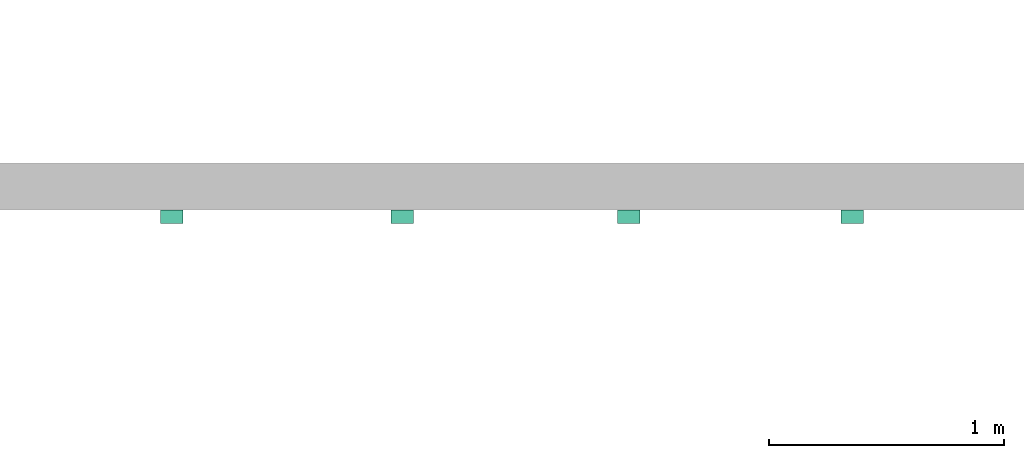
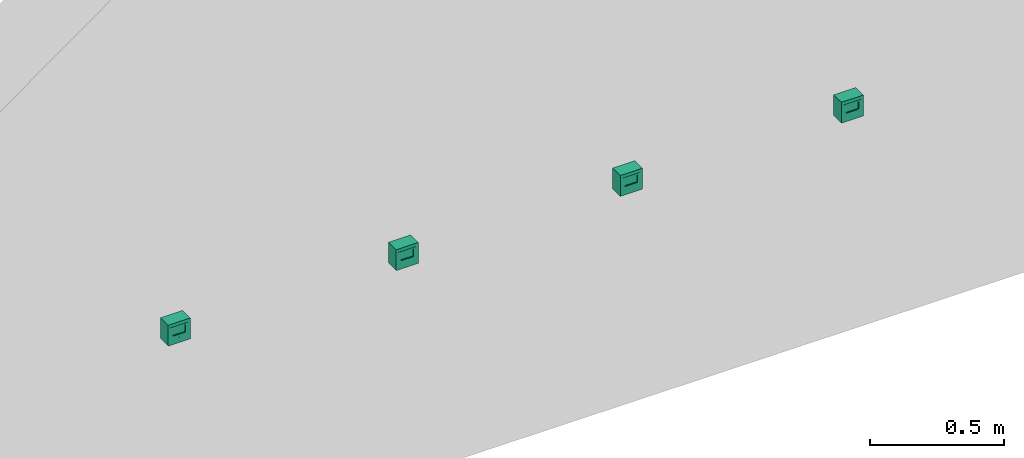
# One storey, part 28 of 197: 4 distribution control elements.
"""IFC2X3 building model written with IfcOpenShell, lengths in metres."""

from ifc_helpers import new_model, entity, si_unit, converted_unit, direction, frame, origin, place, context, subcontext, project, spatial, faceted_brep, source, transform, mapped, material, material_list, type_object, type_shapes, element, save


model = new_model("IFC2X3")

# Units and contexts
model_context = context("Model", 3, precision=1e-05, world=origin(), true_north=direction((6.123031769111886e-17, 1.0)))
body_context = subcontext(model_context, "Body", "Model", "MODEL_VIEW")
ifc_project = project(units=[si_unit("LENGTHUNIT", "METRE"), converted_unit("PLANEANGLEUNIT", "DEGREE", entity("IfcPlaneAngleMeasure", 0.017453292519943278), si_unit("PLANEANGLEUNIT", "RADIAN"), dimensions=[0, 0, 0, 0, 0, 0, 0]), si_unit("AREAUNIT", "SQUARE_METRE")], contexts=[model_context])

# Site, building, storey
site_placement = place(None, origin())
site = spatial("IfcSite", under=ifc_project, at=site_placement, Name="Default", CompositionType="ELEMENT")
building_placement = place(site_placement, origin())
building = spatial("IfcBuilding", under=site, at=building_placement, CompositionType="ELEMENT")
storey_placement = place(building_placement, origin())
storey = spatial("IfcBuildingStorey", under=building, at=storey_placement, Name="Niveau 0", CompositionType="ELEMENT", Elevation=0.0)

# Distribution control elements
ifc_material_1 = material(Name="BETCE-INCENDIE-VITRE BLANC")
ifc_material_2 = material(Name="BETCE-INCENDIE-DM NOIR")
ifc_material_list_1 = material_list([ifc_material_1, ifc_material_2])
alarm_type_1 = type_object("IfcAlarmType", Name="Déclencheur manuel saillie:DM NOIR", PredefinedType="NOTDEFINED", material=ifc_material_list_1)
shared_shape_1 = source(origin(), body_context, "Body", "Brep", [
    faceted_brep([(0.024500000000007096, -0.052000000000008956, 0.03800000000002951), (0.026621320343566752, -0.05200000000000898, 0.038878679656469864), (0.027500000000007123, -0.052000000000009, 0.0410000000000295), (0.027500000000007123, -0.0520000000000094, 0.07000000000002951), (0.026621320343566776, -0.05200000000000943, 0.07212132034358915), (0.024500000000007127, -0.05200000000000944, 0.07300000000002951), (-0.02449999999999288, -0.05200000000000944, 0.07300000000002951), (-0.026621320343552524, -0.05200000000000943, 0.07212132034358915), (-0.027499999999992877, -0.0520000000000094, 0.07000000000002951), (-0.027499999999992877, -0.052000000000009, 0.04100000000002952), (-0.026621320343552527, -0.05200000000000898, 0.03887867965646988), (-0.024499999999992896, -0.052000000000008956, 0.03800000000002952), (0.024500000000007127, -0.05000000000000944, 0.07300000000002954), (0.026621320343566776, -0.050000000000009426, 0.07212132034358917), (0.027500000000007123, -0.05000000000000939, 0.07000000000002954), (0.027500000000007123, -0.050000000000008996, 0.04100000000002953), (0.026621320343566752, -0.050000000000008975, 0.038878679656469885), (0.024500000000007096, -0.050000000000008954, 0.03800000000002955), (-0.024499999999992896, -0.050000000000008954, 0.03800000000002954), (-0.026621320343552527, -0.050000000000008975, 0.038878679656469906), (-0.027499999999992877, -0.050000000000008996, 0.04100000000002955), (-0.027499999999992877, -0.05000000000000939, 0.07000000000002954), (-0.026621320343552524, -0.050000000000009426, 0.07212132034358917), (-0.02449999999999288, -0.05000000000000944, 0.07300000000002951)], [[[0, 1, 2, 3, 4, 5, 6, 7, 8, 9, 10, 11]], [[12, 13, 14, 15, 16, 17, 18, 19, 20, 21, 22, 23]], [[9, 20, 19, 10]], [[19, 18, 11, 10]], [[0, 11, 18, 17]], [[0, 17, 16, 1]], [[16, 15, 2, 1]], [[3, 2, 15, 14]], [[3, 14, 13, 4]], [[13, 12, 5, 4]], [[6, 5, 12, 23]], [[6, 23, 22, 7]], [[22, 21, 8, 7]], [[9, 8, 21, 20]]]),
    faceted_brep([(0.047500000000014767, -0.057000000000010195, 0.09500000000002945), (0.03750000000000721, -0.05700000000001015, 0.09150320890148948), (0.03750000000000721, -0.05700000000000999, 0.07950320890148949), (-0.037499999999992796, -0.05700000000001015, 0.09150320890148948), (0.047500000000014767, -0.057000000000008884, 0.0), (-0.04749999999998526, -0.057000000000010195, 0.09500000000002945), (-0.037499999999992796, -0.05700000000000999, 0.07950320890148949), (-0.047499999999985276, -0.057000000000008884, 0.0), (-0.027499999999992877, -0.05700000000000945, 0.04100000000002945), (-0.026621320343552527, -0.05700000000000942, 0.03887867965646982), (-0.0244999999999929, -0.05700000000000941, 0.03800000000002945), (0.0, -0.057000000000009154, 0.02000000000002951), (0.027500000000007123, -0.05700000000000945, 0.041000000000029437), (0.02662132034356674, -0.05700000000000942, 0.03887867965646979), (0.02450000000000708, -0.05700000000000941, 0.03800000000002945), (0.002000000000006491, -0.05700000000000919, 0.022000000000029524), (0.0, -0.05700000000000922, 0.02400000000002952), (0.0, -0.057000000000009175, 0.021000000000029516), (0.0, -0.057000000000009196, 0.023000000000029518), (0.0010000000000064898, -0.05700000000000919, 0.022000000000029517), (-0.027499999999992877, -0.05700000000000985, 0.07000000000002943), (-0.026621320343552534, -0.05700000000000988, 0.07212132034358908), (-0.02449999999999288, -0.05700000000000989, 0.07300000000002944), (0.024500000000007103, -0.05700000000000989, 0.07300000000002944), (0.02662132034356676, -0.05700000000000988, 0.0721213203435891), (0.027500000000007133, -0.05700000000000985, 0.07000000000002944), (-0.047499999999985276, 0.0, 0.0), (-0.04749999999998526, 0.0, 0.09500000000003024), (0.047500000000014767, 0.0, 0.09500000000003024), (0.04750000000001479, 0.0, 0.0), (-0.024499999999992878, -0.05000000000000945, 0.07300000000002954), (-0.026621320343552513, -0.05000000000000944, 0.07212132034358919), (-0.027499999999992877, -0.050000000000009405, 0.07000000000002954), (-0.027499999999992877, -0.050000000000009, 0.04100000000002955), (-0.026621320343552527, -0.050000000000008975, 0.03887867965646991), (-0.0244999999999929, -0.05000000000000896, 0.038000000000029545), (0.024500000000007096, -0.05000000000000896, 0.03800000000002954), (0.026621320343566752, -0.050000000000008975, 0.038878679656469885), (0.027500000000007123, -0.050000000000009, 0.04100000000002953), (0.027500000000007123, -0.050000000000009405, 0.07000000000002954), (0.026621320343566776, -0.05000000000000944, 0.07212132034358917), (0.024500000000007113, -0.05000000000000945, 0.07300000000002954), (0.0010000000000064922, -0.05000000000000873, 0.02200000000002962), (0.0, -0.050000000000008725, 0.021000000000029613), (0.0, -0.05000000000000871, 0.02000000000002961), (0.0020000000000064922, -0.05000000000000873, 0.022000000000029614), (0.0, -0.05000000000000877, 0.024000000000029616), (0.0, -0.05000000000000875, 0.023000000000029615), (0.03750000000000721, -0.05600000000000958, 0.0795032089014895), (0.03750000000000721, -0.05600000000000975, 0.0915032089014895), (-0.037499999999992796, -0.05600000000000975, 0.0915032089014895), (-0.037499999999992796, -0.05600000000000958, 0.0795032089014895)], [[[0, 1, 2]], [[1, 0, 3]], [[0, 2, 4]], [[5, 3, 0]], [[6, 3, 5]], [[6, 5, 7]], [[8, 6, 7]], [[9, 8, 7]], [[7, 10, 9]], [[10, 7, 11]], [[11, 7, 4]], [[12, 4, 2]], [[4, 12, 13]], [[4, 13, 14]], [[4, 15, 11]], [[14, 15, 4]], [[14, 16, 15]], [[11, 17, 10]], [[17, 18, 10]], [[17, 19, 18]], [[18, 16, 10]], [[14, 10, 16]], [[20, 6, 8]], [[20, 21, 6]], [[21, 22, 6]], [[22, 23, 2]], [[6, 22, 2]], [[23, 24, 2]], [[24, 25, 2]], [[2, 25, 12]], [[26, 27, 28, 29]], [[5, 0, 28, 27]], [[7, 5, 27, 26]], [[4, 7, 26, 29]], [[0, 4, 29, 28]], [[30, 31, 32, 33, 34, 35, 36, 37, 38, 39, 40, 41]], [[42, 43, 44, 45, 46, 47]], [[41, 23, 22, 30]], [[21, 31, 30, 22]], [[20, 32, 31, 21]], [[32, 20, 8, 33]], [[9, 34, 33, 8]], [[10, 35, 34, 9]], [[35, 10, 14, 36]], [[13, 37, 36, 14]], [[12, 38, 37, 13]], [[38, 12, 25, 39]], [[24, 40, 39, 25]], [[23, 41, 40, 24]], [[43, 17, 11, 44]], [[46, 16, 18, 47]], [[15, 45, 44, 11]], [[16, 46, 45, 15]], [[18, 19, 42, 47]], [[42, 19, 17, 43]], [[48, 49, 50, 51]], [[49, 1, 3, 50]], [[50, 3, 6, 51]], [[51, 6, 2, 48]], [[48, 2, 1, 49]]]),
])
type_shapes(alarm_type_1, [shared_shape_1])
distribution_control_element_1_placement = place(storey_placement, frame((-535.0455951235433, -24.636644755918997, 1.0)))
element("IfcDistributionControlElement", 1, at=distribution_control_element_1_placement, inside=storey, type_object=alarm_type_1, material=ifc_material_list_1, Name="Déclencheur manuel saillie:DM NOIR", ObjectType="Déclencheur manuel saillie:DM NOIR", context=body_context, shape_type="MappedRepresentation", body=[
    mapped(shared_shape_1, transform((0.0, 0.0, 0.0), scale=1.0)),
])
ifc_material_3 = material(Name="BETCE-INCENDIE-DM JAUNE")
ifc_material_list_2 = material_list([ifc_material_1, ifc_material_3])
alarm_type_2 = type_object("IfcAlarmType", Name="Déclencheur manuel saillie:DM JAUNE", PredefinedType="NOTDEFINED", material=ifc_material_list_2)
shared_shape_2 = source(origin(), body_context, "Body", "Brep", [
    faceted_brep([(0.024500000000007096, -0.052000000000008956, 0.03800000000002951), (0.026621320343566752, -0.05200000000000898, 0.038878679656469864), (0.027500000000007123, -0.052000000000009, 0.0410000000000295), (0.027500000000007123, -0.0520000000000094, 0.07000000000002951), (0.026621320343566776, -0.05200000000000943, 0.07212132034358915), (0.024500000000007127, -0.05200000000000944, 0.07300000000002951), (-0.02449999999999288, -0.05200000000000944, 0.07300000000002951), (-0.026621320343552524, -0.05200000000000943, 0.07212132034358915), (-0.027499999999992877, -0.0520000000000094, 0.07000000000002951), (-0.027499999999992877, -0.052000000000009, 0.04100000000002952), (-0.026621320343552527, -0.05200000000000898, 0.03887867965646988), (-0.024499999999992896, -0.052000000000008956, 0.03800000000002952), (0.024500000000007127, -0.05000000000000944, 0.07300000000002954), (0.026621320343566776, -0.050000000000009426, 0.07212132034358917), (0.027500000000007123, -0.05000000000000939, 0.07000000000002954), (0.027500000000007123, -0.050000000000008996, 0.04100000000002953), (0.026621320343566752, -0.050000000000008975, 0.038878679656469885), (0.024500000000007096, -0.050000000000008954, 0.03800000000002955), (-0.024499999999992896, -0.050000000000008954, 0.03800000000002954), (-0.026621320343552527, -0.050000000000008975, 0.038878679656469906), (-0.027499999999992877, -0.050000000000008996, 0.04100000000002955), (-0.027499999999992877, -0.05000000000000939, 0.07000000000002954), (-0.026621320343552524, -0.050000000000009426, 0.07212132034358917), (-0.02449999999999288, -0.05000000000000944, 0.07300000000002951)], [[[0, 1, 2, 3, 4, 5, 6, 7, 8, 9, 10, 11]], [[12, 13, 14, 15, 16, 17, 18, 19, 20, 21, 22, 23]], [[9, 20, 19, 10]], [[19, 18, 11, 10]], [[0, 11, 18, 17]], [[0, 17, 16, 1]], [[16, 15, 2, 1]], [[3, 2, 15, 14]], [[3, 14, 13, 4]], [[13, 12, 5, 4]], [[6, 5, 12, 23]], [[6, 23, 22, 7]], [[22, 21, 8, 7]], [[9, 8, 21, 20]]]),
    faceted_brep([(0.047500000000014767, -0.057000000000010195, 0.09500000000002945), (0.03750000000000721, -0.05700000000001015, 0.09150320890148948), (0.03750000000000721, -0.05700000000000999, 0.07950320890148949), (-0.037499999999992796, -0.05700000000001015, 0.09150320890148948), (0.047500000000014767, -0.057000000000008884, 0.0), (-0.04749999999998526, -0.057000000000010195, 0.09500000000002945), (-0.037499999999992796, -0.05700000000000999, 0.07950320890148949), (-0.047499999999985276, -0.057000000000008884, 0.0), (-0.027499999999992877, -0.05700000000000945, 0.04100000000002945), (-0.026621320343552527, -0.05700000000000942, 0.03887867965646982), (-0.0244999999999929, -0.05700000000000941, 0.03800000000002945), (0.0, -0.057000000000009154, 0.02000000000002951), (0.027500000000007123, -0.05700000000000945, 0.041000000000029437), (0.02662132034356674, -0.05700000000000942, 0.03887867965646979), (0.02450000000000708, -0.05700000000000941, 0.03800000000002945), (0.002000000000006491, -0.05700000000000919, 0.022000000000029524), (0.0, -0.05700000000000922, 0.02400000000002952), (0.0, -0.057000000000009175, 0.021000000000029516), (0.0, -0.057000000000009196, 0.023000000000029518), (0.0010000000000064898, -0.05700000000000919, 0.022000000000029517), (-0.027499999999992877, -0.05700000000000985, 0.07000000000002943), (-0.026621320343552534, -0.05700000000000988, 0.07212132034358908), (-0.02449999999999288, -0.05700000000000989, 0.07300000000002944), (0.024500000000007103, -0.05700000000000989, 0.07300000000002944), (0.02662132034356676, -0.05700000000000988, 0.0721213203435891), (0.027500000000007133, -0.05700000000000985, 0.07000000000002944), (-0.047499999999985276, 0.0, 0.0), (-0.04749999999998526, 0.0, 0.09500000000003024), (0.047500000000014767, 0.0, 0.09500000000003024), (0.04750000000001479, 0.0, 0.0), (-0.024499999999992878, -0.05000000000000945, 0.07300000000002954), (-0.026621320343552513, -0.05000000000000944, 0.07212132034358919), (-0.027499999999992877, -0.050000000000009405, 0.07000000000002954), (-0.027499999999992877, -0.050000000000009, 0.04100000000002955), (-0.026621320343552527, -0.050000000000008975, 0.03887867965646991), (-0.0244999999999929, -0.05000000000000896, 0.038000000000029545), (0.024500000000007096, -0.05000000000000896, 0.03800000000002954), (0.026621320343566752, -0.050000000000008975, 0.038878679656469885), (0.027500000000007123, -0.050000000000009, 0.04100000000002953), (0.027500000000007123, -0.050000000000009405, 0.07000000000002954), (0.026621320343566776, -0.05000000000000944, 0.07212132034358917), (0.024500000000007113, -0.05000000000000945, 0.07300000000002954), (0.0010000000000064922, -0.05000000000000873, 0.02200000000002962), (0.0, -0.050000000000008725, 0.021000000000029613), (0.0, -0.05000000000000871, 0.02000000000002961), (0.0020000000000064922, -0.05000000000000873, 0.022000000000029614), (0.0, -0.05000000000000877, 0.024000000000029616), (0.0, -0.05000000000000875, 0.023000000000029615), (0.03750000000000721, -0.05600000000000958, 0.0795032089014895), (0.03750000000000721, -0.05600000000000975, 0.0915032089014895), (-0.037499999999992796, -0.05600000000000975, 0.0915032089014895), (-0.037499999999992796, -0.05600000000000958, 0.0795032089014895)], [[[0, 1, 2]], [[1, 0, 3]], [[0, 2, 4]], [[5, 3, 0]], [[6, 3, 5]], [[6, 5, 7]], [[8, 6, 7]], [[9, 8, 7]], [[7, 10, 9]], [[10, 7, 11]], [[11, 7, 4]], [[12, 4, 2]], [[4, 12, 13]], [[4, 13, 14]], [[4, 15, 11]], [[14, 15, 4]], [[14, 16, 15]], [[11, 17, 10]], [[17, 18, 10]], [[17, 19, 18]], [[18, 16, 10]], [[14, 10, 16]], [[20, 6, 8]], [[20, 21, 6]], [[21, 22, 6]], [[22, 23, 2]], [[6, 22, 2]], [[23, 24, 2]], [[24, 25, 2]], [[2, 25, 12]], [[26, 27, 28, 29]], [[5, 0, 28, 27]], [[7, 5, 27, 26]], [[4, 7, 26, 29]], [[0, 4, 29, 28]], [[30, 31, 32, 33, 34, 35, 36, 37, 38, 39, 40, 41]], [[42, 43, 44, 45, 46, 47]], [[41, 23, 22, 30]], [[21, 31, 30, 22]], [[20, 32, 31, 21]], [[32, 20, 8, 33]], [[9, 34, 33, 8]], [[10, 35, 34, 9]], [[35, 10, 14, 36]], [[13, 37, 36, 14]], [[12, 38, 37, 13]], [[38, 12, 25, 39]], [[24, 40, 39, 25]], [[23, 41, 40, 24]], [[43, 17, 11, 44]], [[46, 16, 18, 47]], [[15, 45, 44, 11]], [[16, 46, 45, 15]], [[18, 19, 42, 47]], [[42, 19, 17, 43]], [[48, 49, 50, 51]], [[49, 1, 3, 50]], [[50, 3, 6, 51]], [[51, 6, 2, 48]], [[48, 2, 1, 49]]]),
])
type_shapes(alarm_type_2, [shared_shape_2])
distribution_control_element_2_placement = place(storey_placement, frame((-535.9975951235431, -24.636644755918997, 1.0)))
element("IfcDistributionControlElement", 2, at=distribution_control_element_2_placement, inside=storey, type_object=alarm_type_2, material=ifc_material_list_2, Name="Déclencheur manuel saillie:DM JAUNE", ObjectType="Déclencheur manuel saillie:DM JAUNE", context=body_context, shape_type="MappedRepresentation", body=[
    mapped(shared_shape_2, transform((0.0, 0.0, 0.0), scale=1.0)),
])
ifc_material_4 = material(Name="BETCE-INCENDIE-DM BLEU")
ifc_material_list_3 = material_list([ifc_material_1, ifc_material_4])
alarm_type_3 = type_object("IfcAlarmType", Name="Déclencheur manuel saillie:DM BLEU", PredefinedType="NOTDEFINED", material=ifc_material_list_3)
shared_shape_3 = source(origin(), body_context, "Body", "Brep", [
    faceted_brep([(0.024500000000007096, -0.052000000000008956, 0.03800000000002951), (0.026621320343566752, -0.05200000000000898, 0.038878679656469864), (0.027500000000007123, -0.052000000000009, 0.0410000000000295), (0.027500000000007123, -0.0520000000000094, 0.07000000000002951), (0.026621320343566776, -0.05200000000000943, 0.07212132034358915), (0.024500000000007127, -0.05200000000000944, 0.07300000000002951), (-0.02449999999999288, -0.05200000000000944, 0.07300000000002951), (-0.026621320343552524, -0.05200000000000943, 0.07212132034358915), (-0.027499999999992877, -0.0520000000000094, 0.07000000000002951), (-0.027499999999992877, -0.052000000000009, 0.04100000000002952), (-0.026621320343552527, -0.05200000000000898, 0.03887867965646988), (-0.024499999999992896, -0.052000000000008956, 0.03800000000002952), (0.024500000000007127, -0.05000000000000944, 0.07300000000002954), (0.026621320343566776, -0.050000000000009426, 0.07212132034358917), (0.027500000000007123, -0.05000000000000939, 0.07000000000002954), (0.027500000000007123, -0.050000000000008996, 0.04100000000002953), (0.026621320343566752, -0.050000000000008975, 0.038878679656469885), (0.024500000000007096, -0.050000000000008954, 0.03800000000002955), (-0.024499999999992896, -0.050000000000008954, 0.03800000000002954), (-0.026621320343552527, -0.050000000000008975, 0.038878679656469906), (-0.027499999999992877, -0.050000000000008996, 0.04100000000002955), (-0.027499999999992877, -0.05000000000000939, 0.07000000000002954), (-0.026621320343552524, -0.050000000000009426, 0.07212132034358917), (-0.02449999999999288, -0.05000000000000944, 0.07300000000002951)], [[[0, 1, 2, 3, 4, 5, 6, 7, 8, 9, 10, 11]], [[12, 13, 14, 15, 16, 17, 18, 19, 20, 21, 22, 23]], [[9, 20, 19, 10]], [[19, 18, 11, 10]], [[0, 11, 18, 17]], [[0, 17, 16, 1]], [[16, 15, 2, 1]], [[3, 2, 15, 14]], [[3, 14, 13, 4]], [[13, 12, 5, 4]], [[6, 5, 12, 23]], [[6, 23, 22, 7]], [[22, 21, 8, 7]], [[9, 8, 21, 20]]]),
    faceted_brep([(0.047500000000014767, -0.057000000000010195, 0.09500000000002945), (0.03750000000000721, -0.05700000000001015, 0.09150320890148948), (0.03750000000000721, -0.05700000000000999, 0.07950320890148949), (-0.037499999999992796, -0.05700000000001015, 0.09150320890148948), (0.047500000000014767, -0.057000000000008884, 0.0), (-0.04749999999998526, -0.057000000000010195, 0.09500000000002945), (-0.037499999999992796, -0.05700000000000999, 0.07950320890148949), (-0.047499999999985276, -0.057000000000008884, 0.0), (-0.027499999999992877, -0.05700000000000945, 0.04100000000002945), (-0.026621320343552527, -0.05700000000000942, 0.03887867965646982), (-0.0244999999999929, -0.05700000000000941, 0.03800000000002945), (0.0, -0.057000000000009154, 0.02000000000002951), (0.027500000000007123, -0.05700000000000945, 0.041000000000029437), (0.02662132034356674, -0.05700000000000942, 0.03887867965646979), (0.02450000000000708, -0.05700000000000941, 0.03800000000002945), (0.002000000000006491, -0.05700000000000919, 0.022000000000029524), (0.0, -0.05700000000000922, 0.02400000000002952), (0.0, -0.057000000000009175, 0.021000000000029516), (0.0, -0.057000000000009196, 0.023000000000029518), (0.0010000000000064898, -0.05700000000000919, 0.022000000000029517), (-0.027499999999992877, -0.05700000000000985, 0.07000000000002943), (-0.026621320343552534, -0.05700000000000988, 0.07212132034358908), (-0.02449999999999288, -0.05700000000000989, 0.07300000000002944), (0.024500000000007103, -0.05700000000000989, 0.07300000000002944), (0.02662132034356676, -0.05700000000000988, 0.0721213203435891), (0.027500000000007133, -0.05700000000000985, 0.07000000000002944), (-0.047499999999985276, 0.0, 0.0), (-0.04749999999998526, 0.0, 0.09500000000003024), (0.047500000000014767, 0.0, 0.09500000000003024), (0.04750000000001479, 0.0, 0.0), (-0.024499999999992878, -0.05000000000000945, 0.07300000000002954), (-0.026621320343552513, -0.05000000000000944, 0.07212132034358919), (-0.027499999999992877, -0.050000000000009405, 0.07000000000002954), (-0.027499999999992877, -0.050000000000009, 0.04100000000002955), (-0.026621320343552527, -0.050000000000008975, 0.03887867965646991), (-0.0244999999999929, -0.05000000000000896, 0.038000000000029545), (0.024500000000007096, -0.05000000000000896, 0.03800000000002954), (0.026621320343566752, -0.050000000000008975, 0.038878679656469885), (0.027500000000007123, -0.050000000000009, 0.04100000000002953), (0.027500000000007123, -0.050000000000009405, 0.07000000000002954), (0.026621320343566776, -0.05000000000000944, 0.07212132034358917), (0.024500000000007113, -0.05000000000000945, 0.07300000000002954), (0.0010000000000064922, -0.05000000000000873, 0.02200000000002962), (0.0, -0.050000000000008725, 0.021000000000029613), (0.0, -0.05000000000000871, 0.02000000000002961), (0.0020000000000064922, -0.05000000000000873, 0.022000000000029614), (0.0, -0.05000000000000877, 0.024000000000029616), (0.0, -0.05000000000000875, 0.023000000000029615), (0.03750000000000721, -0.05600000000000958, 0.0795032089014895), (0.03750000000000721, -0.05600000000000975, 0.0915032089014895), (-0.037499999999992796, -0.05600000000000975, 0.0915032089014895), (-0.037499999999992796, -0.05600000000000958, 0.0795032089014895)], [[[0, 1, 2]], [[1, 0, 3]], [[0, 2, 4]], [[5, 3, 0]], [[6, 3, 5]], [[6, 5, 7]], [[8, 6, 7]], [[9, 8, 7]], [[7, 10, 9]], [[10, 7, 11]], [[11, 7, 4]], [[12, 4, 2]], [[4, 12, 13]], [[4, 13, 14]], [[4, 15, 11]], [[14, 15, 4]], [[14, 16, 15]], [[11, 17, 10]], [[17, 18, 10]], [[17, 19, 18]], [[18, 16, 10]], [[14, 10, 16]], [[20, 6, 8]], [[20, 21, 6]], [[21, 22, 6]], [[22, 23, 2]], [[6, 22, 2]], [[23, 24, 2]], [[24, 25, 2]], [[2, 25, 12]], [[26, 27, 28, 29]], [[5, 0, 28, 27]], [[7, 5, 27, 26]], [[4, 7, 26, 29]], [[0, 4, 29, 28]], [[30, 31, 32, 33, 34, 35, 36, 37, 38, 39, 40, 41]], [[42, 43, 44, 45, 46, 47]], [[41, 23, 22, 30]], [[21, 31, 30, 22]], [[20, 32, 31, 21]], [[32, 20, 8, 33]], [[9, 34, 33, 8]], [[10, 35, 34, 9]], [[35, 10, 14, 36]], [[13, 37, 36, 14]], [[12, 38, 37, 13]], [[38, 12, 25, 39]], [[24, 40, 39, 25]], [[23, 41, 40, 24]], [[43, 17, 11, 44]], [[46, 16, 18, 47]], [[15, 45, 44, 11]], [[16, 46, 45, 15]], [[18, 19, 42, 47]], [[42, 19, 17, 43]], [[48, 49, 50, 51]], [[49, 1, 3, 50]], [[50, 3, 6, 51]], [[51, 6, 2, 48]], [[48, 2, 1, 49]]]),
])
type_shapes(alarm_type_3, [shared_shape_3])
distribution_control_element_3_placement = place(storey_placement, frame((-536.9625951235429, -24.636644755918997, 1.0)))
element("IfcDistributionControlElement", 3, at=distribution_control_element_3_placement, inside=storey, type_object=alarm_type_3, material=ifc_material_list_3, Name="Déclencheur manuel saillie:DM BLEU", ObjectType="Déclencheur manuel saillie:DM BLEU", context=body_context, shape_type="MappedRepresentation", body=[
    mapped(shared_shape_3, transform((0.0, 0.0, 0.0), scale=1.0)),
])
ifc_material_5 = material(Name="BETCE-INCENDIE-DM BLANC")
ifc_material_list_4 = material_list([ifc_material_1, ifc_material_5])
alarm_type_4 = type_object("IfcAlarmType", Name="Déclencheur manuel saillie:DM BLANC", PredefinedType="NOTDEFINED", material=ifc_material_list_4)
shared_shape_4 = source(origin(), body_context, "Body", "Brep", [
    faceted_brep([(0.024500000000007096, -0.052000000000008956, 0.03800000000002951), (0.026621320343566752, -0.05200000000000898, 0.038878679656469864), (0.027500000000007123, -0.052000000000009, 0.0410000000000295), (0.027500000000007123, -0.0520000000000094, 0.07000000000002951), (0.026621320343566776, -0.05200000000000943, 0.07212132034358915), (0.024500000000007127, -0.05200000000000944, 0.07300000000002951), (-0.02449999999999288, -0.05200000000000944, 0.07300000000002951), (-0.026621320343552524, -0.05200000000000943, 0.07212132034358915), (-0.027499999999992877, -0.0520000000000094, 0.07000000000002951), (-0.027499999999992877, -0.052000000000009, 0.04100000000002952), (-0.026621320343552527, -0.05200000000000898, 0.03887867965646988), (-0.024499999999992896, -0.052000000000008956, 0.03800000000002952), (0.024500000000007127, -0.05000000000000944, 0.07300000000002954), (0.026621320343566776, -0.050000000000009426, 0.07212132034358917), (0.027500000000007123, -0.05000000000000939, 0.07000000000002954), (0.027500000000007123, -0.050000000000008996, 0.04100000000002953), (0.026621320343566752, -0.050000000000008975, 0.038878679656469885), (0.024500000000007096, -0.050000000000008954, 0.03800000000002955), (-0.024499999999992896, -0.050000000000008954, 0.03800000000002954), (-0.026621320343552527, -0.050000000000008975, 0.038878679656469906), (-0.027499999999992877, -0.050000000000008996, 0.04100000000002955), (-0.027499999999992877, -0.05000000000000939, 0.07000000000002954), (-0.026621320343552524, -0.050000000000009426, 0.07212132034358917), (-0.02449999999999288, -0.05000000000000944, 0.07300000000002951)], [[[0, 1, 2, 3, 4, 5, 6, 7, 8, 9, 10, 11]], [[12, 13, 14, 15, 16, 17, 18, 19, 20, 21, 22, 23]], [[9, 20, 19, 10]], [[19, 18, 11, 10]], [[0, 11, 18, 17]], [[0, 17, 16, 1]], [[16, 15, 2, 1]], [[3, 2, 15, 14]], [[3, 14, 13, 4]], [[13, 12, 5, 4]], [[6, 5, 12, 23]], [[6, 23, 22, 7]], [[22, 21, 8, 7]], [[9, 8, 21, 20]]]),
    faceted_brep([(0.047500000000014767, -0.057000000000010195, 0.09500000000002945), (0.03750000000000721, -0.05700000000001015, 0.09150320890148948), (0.03750000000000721, -0.05700000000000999, 0.07950320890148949), (-0.037499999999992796, -0.05700000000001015, 0.09150320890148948), (0.047500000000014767, -0.057000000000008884, 0.0), (-0.04749999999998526, -0.057000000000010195, 0.09500000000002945), (-0.037499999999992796, -0.05700000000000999, 0.07950320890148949), (-0.047499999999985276, -0.057000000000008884, 0.0), (-0.027499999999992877, -0.05700000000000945, 0.04100000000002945), (-0.026621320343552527, -0.05700000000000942, 0.03887867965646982), (-0.0244999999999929, -0.05700000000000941, 0.03800000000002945), (0.0, -0.057000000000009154, 0.02000000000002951), (0.027500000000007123, -0.05700000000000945, 0.041000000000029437), (0.02662132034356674, -0.05700000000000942, 0.03887867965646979), (0.02450000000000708, -0.05700000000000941, 0.03800000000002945), (0.002000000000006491, -0.05700000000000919, 0.022000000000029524), (0.0, -0.05700000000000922, 0.02400000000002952), (0.0, -0.057000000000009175, 0.021000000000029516), (0.0, -0.057000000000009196, 0.023000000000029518), (0.0010000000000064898, -0.05700000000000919, 0.022000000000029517), (-0.027499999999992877, -0.05700000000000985, 0.07000000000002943), (-0.026621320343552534, -0.05700000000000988, 0.07212132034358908), (-0.02449999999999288, -0.05700000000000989, 0.07300000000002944), (0.024500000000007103, -0.05700000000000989, 0.07300000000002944), (0.02662132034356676, -0.05700000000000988, 0.0721213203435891), (0.027500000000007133, -0.05700000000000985, 0.07000000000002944), (-0.047499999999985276, 0.0, 0.0), (-0.04749999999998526, 0.0, 0.09500000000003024), (0.047500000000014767, 0.0, 0.09500000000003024), (0.04750000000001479, 0.0, 0.0), (-0.024499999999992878, -0.05000000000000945, 0.07300000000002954), (-0.026621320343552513, -0.05000000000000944, 0.07212132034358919), (-0.027499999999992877, -0.050000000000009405, 0.07000000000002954), (-0.027499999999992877, -0.050000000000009, 0.04100000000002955), (-0.026621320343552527, -0.050000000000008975, 0.03887867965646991), (-0.0244999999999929, -0.05000000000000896, 0.038000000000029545), (0.024500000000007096, -0.05000000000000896, 0.03800000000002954), (0.026621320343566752, -0.050000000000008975, 0.038878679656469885), (0.027500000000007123, -0.050000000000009, 0.04100000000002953), (0.027500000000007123, -0.050000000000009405, 0.07000000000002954), (0.026621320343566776, -0.05000000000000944, 0.07212132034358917), (0.024500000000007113, -0.05000000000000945, 0.07300000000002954), (0.0010000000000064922, -0.05000000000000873, 0.02200000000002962), (0.0, -0.050000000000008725, 0.021000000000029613), (0.0, -0.05000000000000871, 0.02000000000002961), (0.0020000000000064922, -0.05000000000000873, 0.022000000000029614), (0.0, -0.05000000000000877, 0.024000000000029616), (0.0, -0.05000000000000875, 0.023000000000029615), (0.03750000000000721, -0.05600000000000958, 0.0795032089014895), (0.03750000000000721, -0.05600000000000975, 0.0915032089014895), (-0.037499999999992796, -0.05600000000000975, 0.0915032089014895), (-0.037499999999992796, -0.05600000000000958, 0.0795032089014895)], [[[0, 1, 2]], [[1, 0, 3]], [[0, 2, 4]], [[5, 3, 0]], [[6, 3, 5]], [[6, 5, 7]], [[8, 6, 7]], [[9, 8, 7]], [[7, 10, 9]], [[10, 7, 11]], [[11, 7, 4]], [[12, 4, 2]], [[4, 12, 13]], [[4, 13, 14]], [[4, 15, 11]], [[14, 15, 4]], [[14, 16, 15]], [[11, 17, 10]], [[17, 18, 10]], [[17, 19, 18]], [[18, 16, 10]], [[14, 10, 16]], [[20, 6, 8]], [[20, 21, 6]], [[21, 22, 6]], [[22, 23, 2]], [[6, 22, 2]], [[23, 24, 2]], [[24, 25, 2]], [[2, 25, 12]], [[26, 27, 28, 29]], [[5, 0, 28, 27]], [[7, 5, 27, 26]], [[4, 7, 26, 29]], [[0, 4, 29, 28]], [[30, 31, 32, 33, 34, 35, 36, 37, 38, 39, 40, 41]], [[42, 43, 44, 45, 46, 47]], [[41, 23, 22, 30]], [[21, 31, 30, 22]], [[20, 32, 31, 21]], [[32, 20, 8, 33]], [[9, 34, 33, 8]], [[10, 35, 34, 9]], [[35, 10, 14, 36]], [[13, 37, 36, 14]], [[12, 38, 37, 13]], [[38, 12, 25, 39]], [[24, 40, 39, 25]], [[23, 41, 40, 24]], [[43, 17, 11, 44]], [[46, 16, 18, 47]], [[15, 45, 44, 11]], [[16, 46, 45, 15]], [[18, 19, 42, 47]], [[42, 19, 17, 43]], [[48, 49, 50, 51]], [[49, 1, 3, 50]], [[50, 3, 6, 51]], [[51, 6, 2, 48]], [[48, 2, 1, 49]]]),
])
type_shapes(alarm_type_4, [shared_shape_4])
distribution_control_element_4_placement = place(storey_placement, frame((-537.9445951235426, -24.636644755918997, 1.0)))
element("IfcDistributionControlElement", 4, at=distribution_control_element_4_placement, inside=storey, type_object=alarm_type_4, material=ifc_material_list_4, Name="Déclencheur manuel saillie:DM BLANC", ObjectType="Déclencheur manuel saillie:DM BLANC", context=body_context, shape_type="MappedRepresentation", body=[
    mapped(shared_shape_4, transform((0.0, 0.0, 0.0), scale=1.0)),
])

save(model, "model.ifc")
